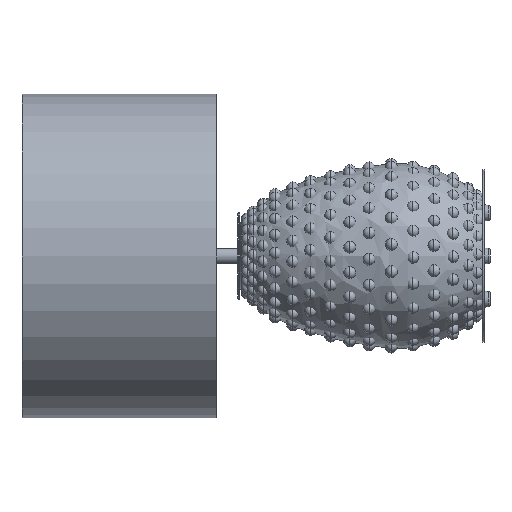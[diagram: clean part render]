
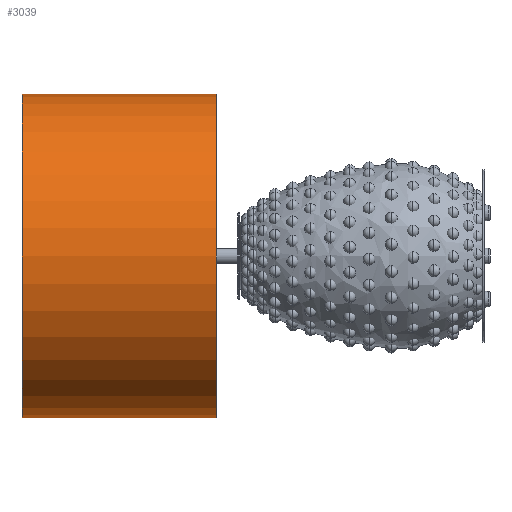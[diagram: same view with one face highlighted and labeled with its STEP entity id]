
A CAD part, left-side view. The second image highlights one B-rep face of the part: STEP entity #3039.
In plain terms, the highlighted cylindrical face has radius 150 mm (diameter 300 mm), a partial arc.
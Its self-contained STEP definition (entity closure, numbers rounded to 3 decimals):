
#2043 = EDGE_LOOP ( 'NONE', ( #21722, #16884, #11795, #27882 ) ) ;
#2493 = AXIS2_PLACEMENT_3D ( 'NONE', #6733, #18474, #13862 ) ;
#2560 = VECTOR ( 'NONE', #8761, 1000. ) ;
#3039 = ADVANCED_FACE ( 'NONE', ( #28217 ), #18256, .T. ) ;
#5415 = DIRECTION ( 'NONE',  ( 0., 0., -1. ) ) ;
#6733 = CARTESIAN_POINT ( 'NONE',  ( -226.89, 42.168, 208.639 ) ) ;
#7684 = DIRECTION ( 'NONE',  ( 0., -1., 0. ) ) ;
#7782 = DIRECTION ( 'NONE',  ( 0., 0., -1. ) ) ;
#7936 = CARTESIAN_POINT ( 'NONE',  ( -226.89, 20.168, 208.639 ) ) ;
#8032 = VECTOR ( 'NONE', #9466, 1000. ) ;
#8037 = CARTESIAN_POINT ( 'NONE',  ( -226.89, 222.168, 358.639 ) ) ;
#8761 = DIRECTION ( 'NONE',  ( 0., -1., 0. ) ) ;
#9466 = DIRECTION ( 'NONE',  ( 0., -1., 0. ) ) ;
#10010 = CARTESIAN_POINT ( 'NONE',  ( -226.89, 222.168, 58.639 ) ) ;
#10228 = CIRCLE ( 'NONE', #29474, 150. ) ;
#10298 = EDGE_CURVE ( 'NONE', #20920, #27992, #18087, .T. ) ;
#10823 = VERTEX_POINT ( 'NONE', #10010 ) ;
#10987 = AXIS2_PLACEMENT_3D ( 'NONE', #7936, #12670, #5415 ) ;
#11795 = ORIENTED_EDGE ( 'NONE', *, *, #27818, .T. ) ;
#12670 = DIRECTION ( 'NONE',  ( 0., -1., 0. ) ) ;
#13298 = EDGE_CURVE ( 'NONE', #27992, #26345, #16782, .T. ) ;
#13862 = DIRECTION ( 'NONE',  ( 0., 0., -1. ) ) ;
#13885 = EDGE_CURVE ( 'NONE', #20920, #10823, #10228, .T. ) ;
#14517 = CARTESIAN_POINT ( 'NONE',  ( -226.89, 222.168, 208.639 ) ) ;
#16782 = CIRCLE ( 'NONE', #2493, 150. ) ;
#16884 = ORIENTED_EDGE ( 'NONE', *, *, #13885, .T. ) ;
#17141 = CARTESIAN_POINT ( 'NONE',  ( -226.89, 42.168, 58.639 ) ) ;
#18087 = LINE ( 'NONE', #27736, #8032 ) ;
#18256 = CYLINDRICAL_SURFACE ( 'NONE', #10987, 150. ) ;
#18474 = DIRECTION ( 'NONE',  ( 0., -1., 0. ) ) ;
#20920 = VERTEX_POINT ( 'NONE', #8037 ) ;
#21722 = ORIENTED_EDGE ( 'NONE', *, *, #10298, .F. ) ;
#25626 = CARTESIAN_POINT ( 'NONE',  ( -226.89, 42.168, 358.639 ) ) ;
#26345 = VERTEX_POINT ( 'NONE', #17141 ) ;
#26851 = LINE ( 'NONE', #27433, #2560 ) ;
#27433 = CARTESIAN_POINT ( 'NONE',  ( -226.89, 20.168, 58.639 ) ) ;
#27736 = CARTESIAN_POINT ( 'NONE',  ( -226.89, 20.168, 358.639 ) ) ;
#27818 = EDGE_CURVE ( 'NONE', #10823, #26345, #26851, .T. ) ;
#27882 = ORIENTED_EDGE ( 'NONE', *, *, #13298, .F. ) ;
#27992 = VERTEX_POINT ( 'NONE', #25626 ) ;
#28217 = FACE_OUTER_BOUND ( 'NONE', #2043, .T. ) ;
#29474 = AXIS2_PLACEMENT_3D ( 'NONE', #14517, #7684, #7782 ) ;
